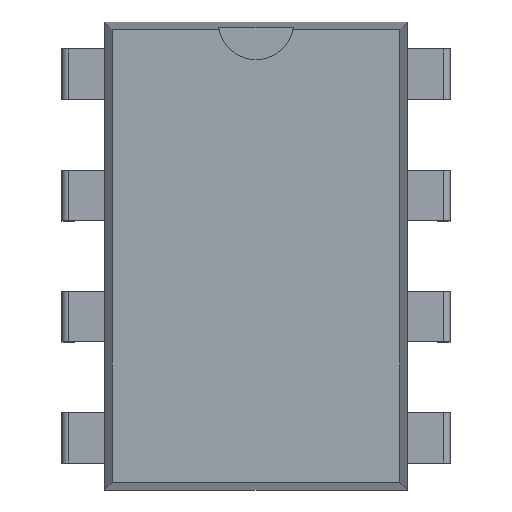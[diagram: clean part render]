
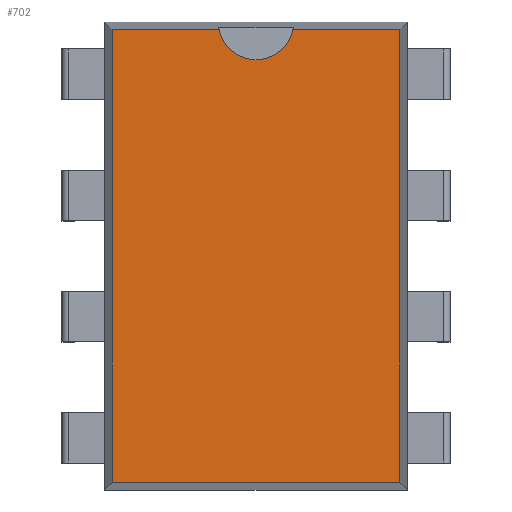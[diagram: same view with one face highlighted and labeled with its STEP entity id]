
A CAD part, top view. The second image highlights one B-rep face of the part: STEP entity #702.
In plain terms, the highlighted planar face has unit normal (0, 0, 1).
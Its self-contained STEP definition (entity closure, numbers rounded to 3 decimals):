
#141 = PLANE('',#142);
#142 = AXIS2_PLACEMENT_3D('',#143,#144,#145);
#143 = CARTESIAN_POINT('',(-3.096,-4.909,3.943));
#144 = DIRECTION('',(0.998,0.,-0.07));
#145 = DIRECTION('',(0.,1.,0.));
#227 = PLANE('',#228);
#228 = AXIS2_PLACEMENT_3D('',#229,#230,#231);
#229 = CARTESIAN_POINT('',(-3.175,-4.829,3.943));
#230 = DIRECTION('',(0.,0.998,-0.07));
#231 = DIRECTION('',(-1.,-0.,-0.));
#324 = VERTEX_POINT('',#325);
#325 = CARTESIAN_POINT('',(-3.016,-4.75,5.08));
#348 = VERTEX_POINT('',#349);
#349 = CARTESIAN_POINT('',(-3.016,4.75,5.08));
#363 = PLANE('',#364);
#364 = AXIS2_PLACEMENT_3D('',#365,#366,#367);
#365 = CARTESIAN_POINT('',(-3.175,4.829,3.943));
#366 = DIRECTION('',(0.,0.998,0.07));
#367 = DIRECTION('',(-1.,0.,0.));
#375 = EDGE_CURVE('',#324,#348,#376,.T.);
#376 = SURFACE_CURVE('',#377,(#381,#388),.PCURVE_S1.);
#377 = LINE('',#378,#379);
#378 = CARTESIAN_POINT('',(-3.016,-4.909,5.08));
#379 = VECTOR('',#380,1.);
#380 = DIRECTION('',(0.,1.,0.));
#381 = PCURVE('',#141,#382);
#382 = DEFINITIONAL_REPRESENTATION('',(#383),#387);
#383 = LINE('',#384,#385);
#384 = CARTESIAN_POINT('',(0.,1.14));
#385 = VECTOR('',#386,1.);
#386 = DIRECTION('',(1.,0.));
#387 = ( GEOMETRIC_REPRESENTATION_CONTEXT(2) 
PARAMETRIC_REPRESENTATION_CONTEXT() REPRESENTATION_CONTEXT('2D SPACE',''
  ) );
#388 = PCURVE('',#389,#394);
#389 = PLANE('',#390);
#390 = AXIS2_PLACEMENT_3D('',#391,#392,#393);
#391 = CARTESIAN_POINT('',(-3.175,-4.909,5.08));
#392 = DIRECTION('',(0.,0.,1.));
#393 = DIRECTION('',(1.,0.,0.));
#394 = DEFINITIONAL_REPRESENTATION('',(#395),#399);
#395 = LINE('',#396,#397);
#396 = CARTESIAN_POINT('',(0.159,0.));
#397 = VECTOR('',#398,1.);
#398 = DIRECTION('',(0.,1.));
#399 = ( GEOMETRIC_REPRESENTATION_CONTEXT(2) 
PARAMETRIC_REPRESENTATION_CONTEXT() REPRESENTATION_CONTEXT('2D SPACE',''
  ) );
#517 = PLANE('',#518);
#518 = AXIS2_PLACEMENT_3D('',#519,#520,#521);
#519 = CARTESIAN_POINT('',(3.096,-4.909,3.943));
#520 = DIRECTION('',(0.998,0.,0.07));
#521 = DIRECTION('',(0.,1.,0.));
#584 = VERTEX_POINT('',#585);
#585 = CARTESIAN_POINT('',(3.016,-4.75,5.08));
#606 = EDGE_CURVE('',#324,#584,#607,.T.);
#607 = SURFACE_CURVE('',#608,(#612,#619),.PCURVE_S1.);
#608 = LINE('',#609,#610);
#609 = CARTESIAN_POINT('',(-3.175,-4.75,5.08));
#610 = VECTOR('',#611,1.);
#611 = DIRECTION('',(1.,0.,0.));
#612 = PCURVE('',#227,#613);
#613 = DEFINITIONAL_REPRESENTATION('',(#614),#618);
#614 = LINE('',#615,#616);
#615 = CARTESIAN_POINT('',(-0.,1.14));
#616 = VECTOR('',#617,1.);
#617 = DIRECTION('',(-1.,0.));
#618 = ( GEOMETRIC_REPRESENTATION_CONTEXT(2) 
PARAMETRIC_REPRESENTATION_CONTEXT() REPRESENTATION_CONTEXT('2D SPACE',''
  ) );
#619 = PCURVE('',#389,#620);
#620 = DEFINITIONAL_REPRESENTATION('',(#621),#625);
#621 = LINE('',#622,#623);
#622 = CARTESIAN_POINT('',(0.,0.159));
#623 = VECTOR('',#624,1.);
#624 = DIRECTION('',(1.,0.));
#625 = ( GEOMETRIC_REPRESENTATION_CONTEXT(2) 
PARAMETRIC_REPRESENTATION_CONTEXT() REPRESENTATION_CONTEXT('2D SPACE',''
  ) );
#702 = ADVANCED_FACE('',(#703),#389,.T.);
#703 = FACE_BOUND('',#704,.T.);
#704 = EDGE_LOOP('',(#705,#706,#707,#730,#753,#782));
#705 = ORIENTED_EDGE('',*,*,#375,.F.);
#706 = ORIENTED_EDGE('',*,*,#606,.T.);
#707 = ORIENTED_EDGE('',*,*,#708,.T.);
#708 = EDGE_CURVE('',#584,#709,#711,.T.);
#709 = VERTEX_POINT('',#710);
#710 = CARTESIAN_POINT('',(3.016,4.75,5.08));
#711 = SURFACE_CURVE('',#712,(#716,#723),.PCURVE_S1.);
#712 = LINE('',#713,#714);
#713 = CARTESIAN_POINT('',(3.016,-4.909,5.08));
#714 = VECTOR('',#715,1.);
#715 = DIRECTION('',(0.,1.,0.));
#716 = PCURVE('',#389,#717);
#717 = DEFINITIONAL_REPRESENTATION('',(#718),#722);
#718 = LINE('',#719,#720);
#719 = CARTESIAN_POINT('',(6.191,0.));
#720 = VECTOR('',#721,1.);
#721 = DIRECTION('',(0.,1.));
#722 = ( GEOMETRIC_REPRESENTATION_CONTEXT(2) 
PARAMETRIC_REPRESENTATION_CONTEXT() REPRESENTATION_CONTEXT('2D SPACE',''
  ) );
#723 = PCURVE('',#517,#724);
#724 = DEFINITIONAL_REPRESENTATION('',(#725),#729);
#725 = LINE('',#726,#727);
#726 = CARTESIAN_POINT('',(0.,1.14));
#727 = VECTOR('',#728,1.);
#728 = DIRECTION('',(1.,0.));
#729 = ( GEOMETRIC_REPRESENTATION_CONTEXT(2) 
PARAMETRIC_REPRESENTATION_CONTEXT() REPRESENTATION_CONTEXT('2D SPACE',''
  ) );
#730 = ORIENTED_EDGE('',*,*,#731,.F.);
#731 = EDGE_CURVE('',#732,#709,#734,.T.);
#732 = VERTEX_POINT('',#733);
#733 = CARTESIAN_POINT('',(0.778,4.75,5.08));
#734 = SURFACE_CURVE('',#735,(#739,#746),.PCURVE_S1.);
#735 = LINE('',#736,#737);
#736 = CARTESIAN_POINT('',(-3.175,4.75,5.08));
#737 = VECTOR('',#738,1.);
#738 = DIRECTION('',(1.,0.,0.));
#739 = PCURVE('',#389,#740);
#740 = DEFINITIONAL_REPRESENTATION('',(#741),#745);
#741 = LINE('',#742,#743);
#742 = CARTESIAN_POINT('',(0.,9.658));
#743 = VECTOR('',#744,1.);
#744 = DIRECTION('',(1.,0.));
#745 = ( GEOMETRIC_REPRESENTATION_CONTEXT(2) 
PARAMETRIC_REPRESENTATION_CONTEXT() REPRESENTATION_CONTEXT('2D SPACE',''
  ) );
#746 = PCURVE('',#363,#747);
#747 = DEFINITIONAL_REPRESENTATION('',(#748),#752);
#748 = LINE('',#749,#750);
#749 = CARTESIAN_POINT('',(-0.,1.14));
#750 = VECTOR('',#751,1.);
#751 = DIRECTION('',(-1.,0.));
#752 = ( GEOMETRIC_REPRESENTATION_CONTEXT(2) 
PARAMETRIC_REPRESENTATION_CONTEXT() REPRESENTATION_CONTEXT('2D SPACE',''
  ) );
#753 = ORIENTED_EDGE('',*,*,#754,.F.);
#754 = EDGE_CURVE('',#755,#732,#757,.T.);
#755 = VERTEX_POINT('',#756);
#756 = CARTESIAN_POINT('',(-0.778,4.75,5.08));
#757 = SURFACE_CURVE('',#758,(#763,#770),.PCURVE_S1.);
#758 = CIRCLE('',#759,0.794);
#759 = AXIS2_PLACEMENT_3D('',#760,#761,#762);
#760 = CARTESIAN_POINT('',(0.,4.909,5.08));
#761 = DIRECTION('',(0.,0.,1.));
#762 = DIRECTION('',(1.,0.,0.));
#763 = PCURVE('',#389,#764);
#764 = DEFINITIONAL_REPRESENTATION('',(#765),#769);
#765 = CIRCLE('',#766,0.794);
#766 = AXIS2_PLACEMENT_2D('',#767,#768);
#767 = CARTESIAN_POINT('',(3.175,9.817));
#768 = DIRECTION('',(1.,0.));
#769 = ( GEOMETRIC_REPRESENTATION_CONTEXT(2) 
PARAMETRIC_REPRESENTATION_CONTEXT() REPRESENTATION_CONTEXT('2D SPACE',''
  ) );
#770 = PCURVE('',#771,#776);
#771 = CYLINDRICAL_SURFACE('',#772,0.794);
#772 = AXIS2_PLACEMENT_3D('',#773,#774,#775);
#773 = CARTESIAN_POINT('',(0.,4.909,4.572));
#774 = DIRECTION('',(0.,0.,1.));
#775 = DIRECTION('',(1.,0.,0.));
#776 = DEFINITIONAL_REPRESENTATION('',(#777),#781);
#777 = LINE('',#778,#779);
#778 = CARTESIAN_POINT('',(0.,0.508));
#779 = VECTOR('',#780,1.);
#780 = DIRECTION('',(1.,0.));
#781 = ( GEOMETRIC_REPRESENTATION_CONTEXT(2) 
PARAMETRIC_REPRESENTATION_CONTEXT() REPRESENTATION_CONTEXT('2D SPACE',''
  ) );
#782 = ORIENTED_EDGE('',*,*,#783,.F.);
#783 = EDGE_CURVE('',#348,#755,#784,.T.);
#784 = SURFACE_CURVE('',#785,(#789,#796),.PCURVE_S1.);
#785 = LINE('',#786,#787);
#786 = CARTESIAN_POINT('',(-3.175,4.75,5.08));
#787 = VECTOR('',#788,1.);
#788 = DIRECTION('',(1.,0.,0.));
#789 = PCURVE('',#389,#790);
#790 = DEFINITIONAL_REPRESENTATION('',(#791),#795);
#791 = LINE('',#792,#793);
#792 = CARTESIAN_POINT('',(0.,9.658));
#793 = VECTOR('',#794,1.);
#794 = DIRECTION('',(1.,0.));
#795 = ( GEOMETRIC_REPRESENTATION_CONTEXT(2) 
PARAMETRIC_REPRESENTATION_CONTEXT() REPRESENTATION_CONTEXT('2D SPACE',''
  ) );
#796 = PCURVE('',#363,#797);
#797 = DEFINITIONAL_REPRESENTATION('',(#798),#802);
#798 = LINE('',#799,#800);
#799 = CARTESIAN_POINT('',(-0.,1.14));
#800 = VECTOR('',#801,1.);
#801 = DIRECTION('',(-1.,0.));
#802 = ( GEOMETRIC_REPRESENTATION_CONTEXT(2) 
PARAMETRIC_REPRESENTATION_CONTEXT() REPRESENTATION_CONTEXT('2D SPACE',''
  ) );
